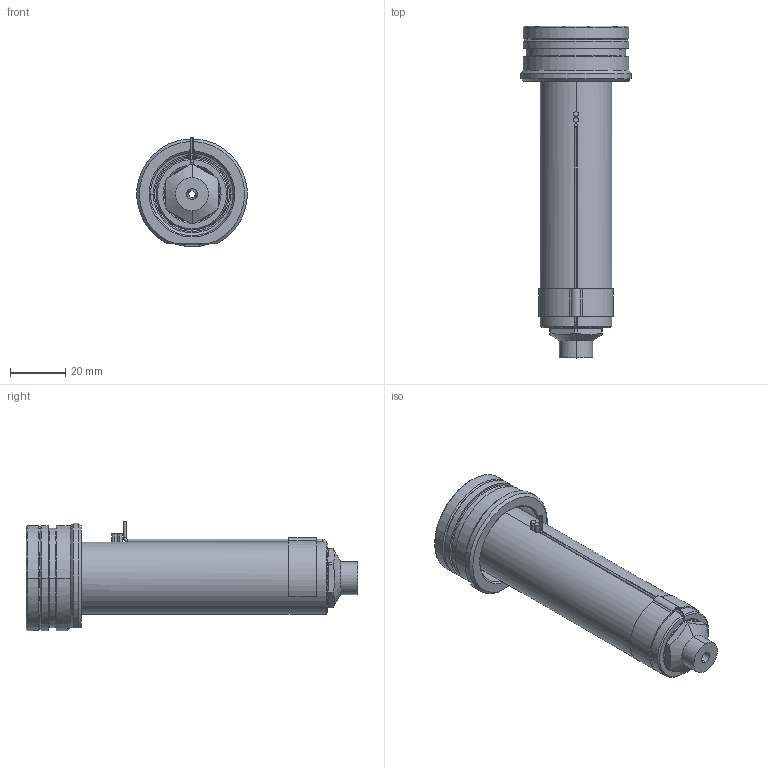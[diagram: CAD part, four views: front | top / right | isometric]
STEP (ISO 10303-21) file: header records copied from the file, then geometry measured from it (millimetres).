
FILE_DESCRIPTION((''),'2;1');
FILE_NAME('EO08_VG-ST_STD_100_SW','2024-02-19T12:42:31',('sundharh'),(''),'CREO PARAMETRIC BY PTC INC, 2023154','CREO PARAMETRIC BY PTC INC, 2023154','');
FILE_SCHEMA(('CONFIG_CONTROL_DESIGN'));
Length unit declared in the file: millimetre
Products named in the file (1): EO08_VG-ST_STD_100_SW
Bounding box: 39.88 x 120 x 39.52 mm (x, y, z)
Volume: 64139.7 mm3; surface area: 18661.9 mm2
Topology: 1 solids, 1 shells, 174 faces, 438 edges, 269 vertices
Faces by surface type: cylinder 64, plane 44, cone 37, torus 19, bspline 8, sphere 2
Entity records: 6499 total; most frequent: CARTESIAN_POINT 2235, DIRECTION 941, ORIENTED_EDGE 868, EDGE_CURVE 434, AXIS2_PLACEMENT_3D 390, VERTEX_POINT 269, CIRCLE 224, EDGE_LOOP 189
